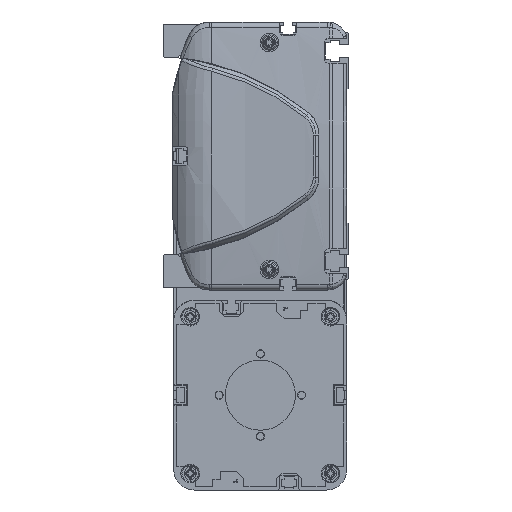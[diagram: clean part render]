
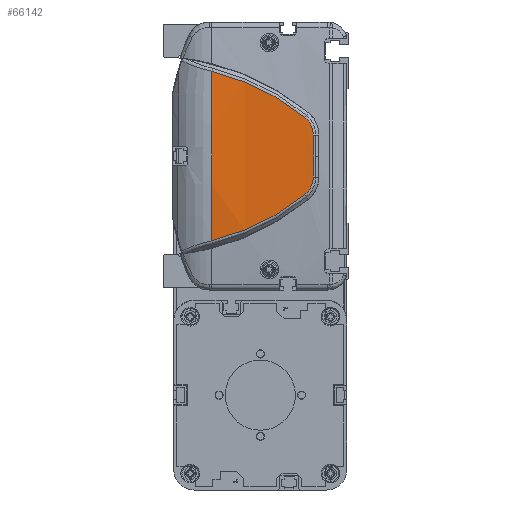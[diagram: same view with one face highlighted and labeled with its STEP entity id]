
A CAD part, left-side view. The second image highlights one B-rep face of the part: STEP entity #66142.
In plain terms, the highlighted cylindrical face has radius 500 mm (diameter 1000 mm), a partial arc.
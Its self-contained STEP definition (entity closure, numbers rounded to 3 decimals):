
#62405=CARTESIAN_POINT('',(-914.,66.962,0.));
#62406=DIRECTION('',(0.,-1.,0.));
#62407=DIRECTION('',(-0.997,0.,0.082));
#62408=AXIS2_PLACEMENT_3D('',#62405,#62406,#62407);
#63282=CARTESIAN_POINT('',(-1413.648,21.913,
-18.759));
#63283=CARTESIAN_POINT('',(-1413.449,28.504,
-24.058));
#63284=CARTESIAN_POINT('',(-1412.934,42.795,
-33.27));
#63285=CARTESIAN_POINT('',(-1412.471,58.756,
-39.127));
#63286=CARTESIAN_POINT('',(-1412.306,66.962,
-41.121));
#63288=CARTESIAN_POINT('',(-1412.306,66.962,
41.121));
#63289=CARTESIAN_POINT('',(-1412.471,58.756,
39.127));
#63290=CARTESIAN_POINT('',(-1412.934,42.795,
33.27));
#63291=CARTESIAN_POINT('',(-1413.449,28.504,
24.058));
#63292=CARTESIAN_POINT('',(-1413.648,21.913,
18.759));
#63294=CARTESIAN_POINT('',(-1413.648,21.913,
18.759));
#63295=CARTESIAN_POINT('',(-1413.686,20.635,
17.736));
#63296=CARTESIAN_POINT('',(-1413.779,18.536,
15.107));
#63297=CARTESIAN_POINT('',(-1413.863,17.752,
11.827));
#63298=CARTESIAN_POINT('',(-1413.896,17.724,
10.178));
#63300=CARTESIAN_POINT('',(-1413.896,17.724,
10.178));
#63301=CARTESIAN_POINT('',(-1413.92,17.707,
9.027));
#63302=CARTESIAN_POINT('',(-1413.959,17.667,
6.737));
#63303=CARTESIAN_POINT('',(-1413.993,17.58,
3.342));
#63304=CARTESIAN_POINT('',(-1414.,17.498,
1.109));
#63305=CARTESIAN_POINT('',(-1414.,17.449,
0.));
#63307=CARTESIAN_POINT('',(-1414.,17.449,
0.));
#63308=CARTESIAN_POINT('',(-1414.,17.498,
-1.109));
#63309=CARTESIAN_POINT('',(-1413.993,17.58,
-3.343));
#63310=CARTESIAN_POINT('',(-1413.959,17.667,
-6.736));
#63311=CARTESIAN_POINT('',(-1413.92,17.707,
-9.028));
#63312=CARTESIAN_POINT('',(-1413.896,17.724,
-10.18));
#63314=CARTESIAN_POINT('',(-1413.896,17.724,
-10.18));
#63315=CARTESIAN_POINT('',(-1413.863,17.752,
-11.828));
#63316=CARTESIAN_POINT('',(-1413.779,18.537,
-15.109));
#63317=CARTESIAN_POINT('',(-1413.686,20.635,
-17.736));
#63318=CARTESIAN_POINT('',(-1413.648,21.913,
-18.759));
#63966=VERTEX_POINT('',#63282);
#63967=VERTEX_POINT('',#63286);
#63968=CARTESIAN_POINT('',(-1412.306,66.962,
41.121));
#63969=VERTEX_POINT('',#63968);
#63970=VERTEX_POINT('',#63292);
#63971=VERTEX_POINT('',#63298);
#63972=VERTEX_POINT('',#63305);
#63973=VERTEX_POINT('',#63312);
#66123=CARTESIAN_POINT('',(-914.,8.606,0.));
#66124=DIRECTION('',(0.,1.,0.));
#66125=DIRECTION('',(1.,0.,0.));
#66126=AXIS2_PLACEMENT_3D('',#66123,#66124,#66125);
#66127=CYLINDRICAL_SURFACE('',#66126,500.);
#66129=ORIENTED_EDGE('',*,*,#66128,.T.);
#66130=ORIENTED_EDGE('',*,*,#64768,.F.);
#66132=ORIENTED_EDGE('',*,*,#66131,.T.);
#66134=ORIENTED_EDGE('',*,*,#66133,.T.);
#66136=ORIENTED_EDGE('',*,*,#66135,.T.);
#66138=ORIENTED_EDGE('',*,*,#66137,.T.);
#66139=ORIENTED_EDGE('',*,*,#66113,.T.);
#66140=EDGE_LOOP('',(#66129,#66130,#66132,#66134,#66136,#66138,#66139));
#66141=FACE_OUTER_BOUND('',#66140,.F.);
#66142=ADVANCED_FACE('',(#66141),#66127,.T.);
#62409=CIRCLE('',#62408,500.);
#63287=B_SPLINE_CURVE_WITH_KNOTS('',3,(#63282,#63283,#63284,#63285,#63286),
.UNSPECIFIED.,.F.,.F.,(4,1,4),(0.,0.5,1.),.UNSPECIFIED.);
#63293=B_SPLINE_CURVE_WITH_KNOTS('',3,(#63288,#63289,#63290,#63291,#63292),
.UNSPECIFIED.,.F.,.F.,(4,1,4),(0.,0.5,1.),.UNSPECIFIED.);
#63299=B_SPLINE_CURVE_WITH_KNOTS('',3,(#63294,#63295,#63296,#63297,#63298),
.UNSPECIFIED.,.F.,.F.,(4,1,4),(0.,0.5,1.),.UNSPECIFIED.);
#63306=B_SPLINE_CURVE_WITH_KNOTS('',3,(#63300,#63301,#63302,#63303,#63304,
#63305),.UNSPECIFIED.,.F.,.F.,(4,1,1,4),(0.,0.333,
0.667,1.),.UNSPECIFIED.);
#63313=B_SPLINE_CURVE_WITH_KNOTS('',3,(#63307,#63308,#63309,#63310,#63311,
#63312),.UNSPECIFIED.,.F.,.F.,(4,1,1,4),(0.,0.333,
0.667,1.),.UNSPECIFIED.);
#63319=B_SPLINE_CURVE_WITH_KNOTS('',3,(#63314,#63315,#63316,#63317,#63318),
.UNSPECIFIED.,.F.,.F.,(4,1,4),(0.,0.5,1.),.UNSPECIFIED.);
#64768=EDGE_CURVE('',#63969,#63967,#62409,.T.);
#66113=EDGE_CURVE('',#63973,#63966,#63319,.T.);
#66128=EDGE_CURVE('',#63966,#63967,#63287,.T.);
#66131=EDGE_CURVE('',#63969,#63970,#63293,.T.);
#66133=EDGE_CURVE('',#63970,#63971,#63299,.T.);
#66135=EDGE_CURVE('',#63971,#63972,#63306,.T.);
#66137=EDGE_CURVE('',#63972,#63973,#63313,.T.);
